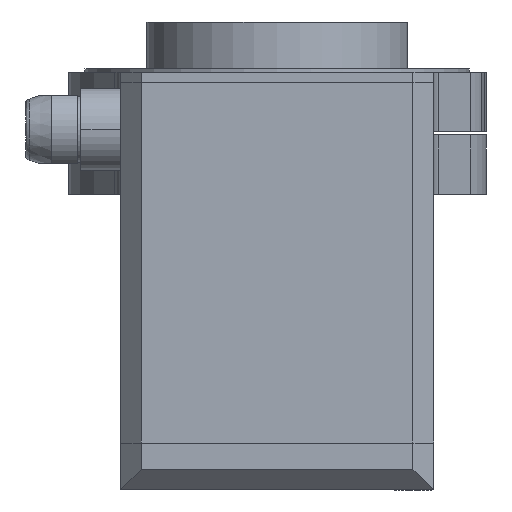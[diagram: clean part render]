
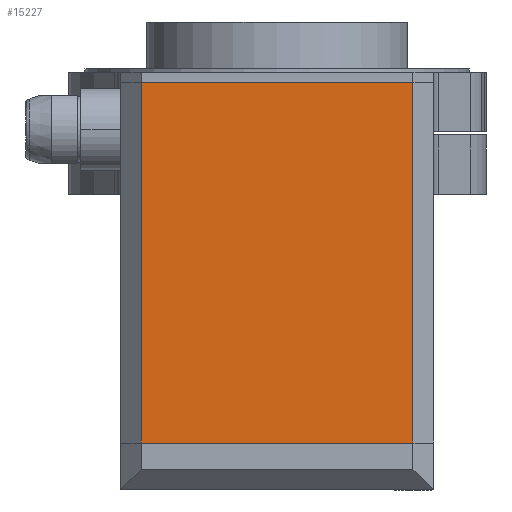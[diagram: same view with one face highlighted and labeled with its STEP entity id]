
A CAD part, left-side view. The second image highlights one B-rep face of the part: STEP entity #15227.
In plain terms, the highlighted planar face has unit normal (1, 0, 0).
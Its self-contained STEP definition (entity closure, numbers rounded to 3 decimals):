
#501 = DIRECTION ( 'NONE',  ( 0., -1., 0. ) ) ;
#1958 = EDGE_LOOP ( 'NONE', ( #12219, #15345, #15268, #6377 ) ) ;
#2423 = CARTESIAN_POINT ( 'NONE',  ( -45., 13., 10.7 ) ) ;
#2460 = FACE_OUTER_BOUND ( 'NONE', #1958, .T. ) ;
#3356 = VERTEX_POINT ( 'NONE', #19862 ) ;
#4217 = VECTOR ( 'NONE', #9103, 1000. ) ;
#4257 = LINE ( 'NONE', #12899, #13727 ) ;
#6377 = ORIENTED_EDGE ( 'NONE', *, *, #8381, .T. ) ;
#7129 = LINE ( 'NONE', #13001, #16124 ) ;
#7378 = LINE ( 'NONE', #8965, #4217 ) ;
#7440 = PLANE ( 'NONE',  #18289 ) ;
#8344 = DIRECTION ( 'NONE',  ( 0., 0., 1. ) ) ;
#8381 = EDGE_CURVE ( 'NONE', #3356, #12693, #7378, .T. ) ;
#8965 = CARTESIAN_POINT ( 'NONE',  ( -45., -13., 11.7 ) ) ;
#9103 = DIRECTION ( 'NONE',  ( 0., 0., -1. ) ) ;
#9139 = DIRECTION ( 'NONE',  ( 1., 0., 0. ) ) ;
#9860 = CARTESIAN_POINT ( 'NONE',  ( -45., -15., -23.81 ) ) ;
#10428 = VECTOR ( 'NONE', #17718, 1000. ) ;
#10707 = VERTEX_POINT ( 'NONE', #19814 ) ;
#10743 = CARTESIAN_POINT ( 'NONE',  ( -45., -15., 11.7 ) ) ;
#11732 = EDGE_CURVE ( 'NONE', #10707, #13887, #4257, .T. ) ;
#12219 = ORIENTED_EDGE ( 'NONE', *, *, #18920, .T. ) ;
#12693 = VERTEX_POINT ( 'NONE', #16258 ) ;
#12899 = CARTESIAN_POINT ( 'NONE',  ( -45., 13., 11.7 ) ) ;
#13001 = CARTESIAN_POINT ( 'NONE',  ( -45., -15., 10.7 ) ) ;
#13321 = EDGE_CURVE ( 'NONE', #13887, #3356, #7129, .T. ) ;
#13727 = VECTOR ( 'NONE', #8344, 1000. ) ;
#13887 = VERTEX_POINT ( 'NONE', #2423 ) ;
#15227 = ADVANCED_FACE ( 'NONE', ( #2460 ), #7440, .T. ) ;
#15268 = ORIENTED_EDGE ( 'NONE', *, *, #13321, .T. ) ;
#15345 = ORIENTED_EDGE ( 'NONE', *, *, #11732, .T. ) ;
#16124 = VECTOR ( 'NONE', #501, 1000. ) ;
#16258 = CARTESIAN_POINT ( 'NONE',  ( -45., -13., -23.81 ) ) ;
#17718 = DIRECTION ( 'NONE',  ( 0., 1., 0. ) ) ;
#18289 = AXIS2_PLACEMENT_3D ( 'NONE', #10743, #9139, #18479 ) ;
#18479 = DIRECTION ( 'NONE',  ( 0., 1., 0. ) ) ;
#18920 = EDGE_CURVE ( 'NONE', #12693, #10707, #19692, .T. ) ;
#19692 = LINE ( 'NONE', #9860, #10428 ) ;
#19814 = CARTESIAN_POINT ( 'NONE',  ( -45., 13., -23.81 ) ) ;
#19862 = CARTESIAN_POINT ( 'NONE',  ( -45., -13., 10.7 ) ) ;
